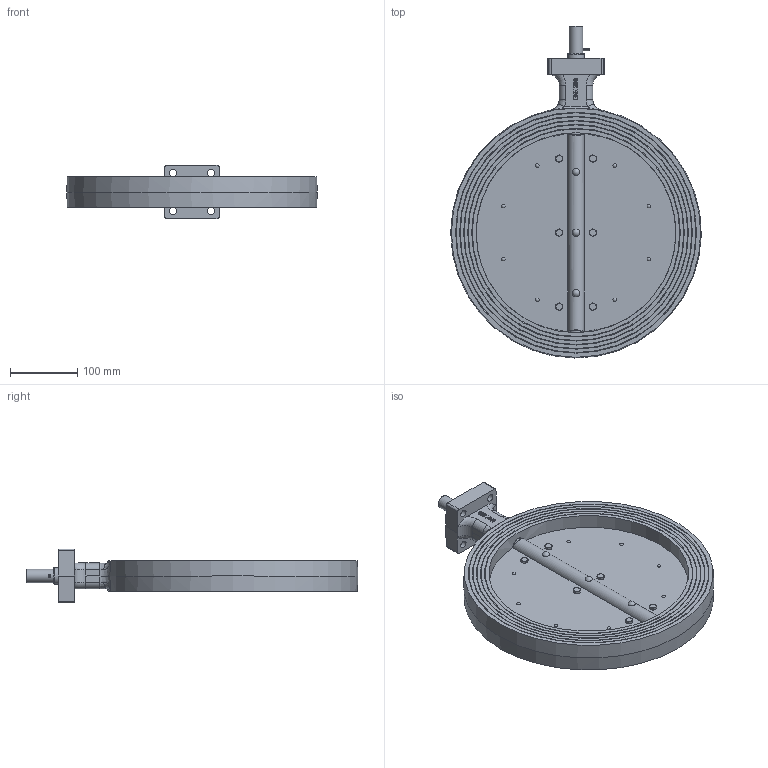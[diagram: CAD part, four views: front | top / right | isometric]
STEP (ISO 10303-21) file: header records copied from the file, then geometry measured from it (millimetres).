
FILE_DESCRIPTION((''),'2;1');
FILE_NAME('G:\CAD-Download\MRK\MRK Ro We\DN 300\MRK Ro We 300-4.00.32.stp','2010-08-26T10:43:39',('da'),(''),'Autodesk Inventor 2008','Autodesk Inventor 2008','');
FILE_SCHEMA(('AUTOMOTIVE_DESIGN { 1 0 10303 214 1 1 1 1 }'));
Length unit declared in the file: millimetre
Products named in the file (1): Bauteil2
Bounding box: 372.14 x 493.08 x 80 mm (x, y, z)
Volume: 2354165.7 mm3; surface area: 468135.9 mm2
Topology: 1 solids, 1 shells, 614 faces, 1524 edges, 984 vertices
Faces by surface type: plane 313, bspline 94, cylinder 91, cone 90, sphere 22, torus 4
Full cylindrical faces by diameter (mm): 2.5 x2, 3 x8, 6 x9, 6.5 x6, 8.88 x6, 19 x2, 20 x3, 25 x1, 39.9 x1, 42.5 x1, 297 x1
Entity records: 20754 total; most frequent: CARTESIAN_POINT 7334, ORIENTED_EDGE 2702, DIRECTION 2456, EDGE_CURVE 1351, AXIS2_PLACEMENT_3D 924, VERTEX_POINT 921, EDGE_LOOP 866, FACE_OUTER_BOUND 614
